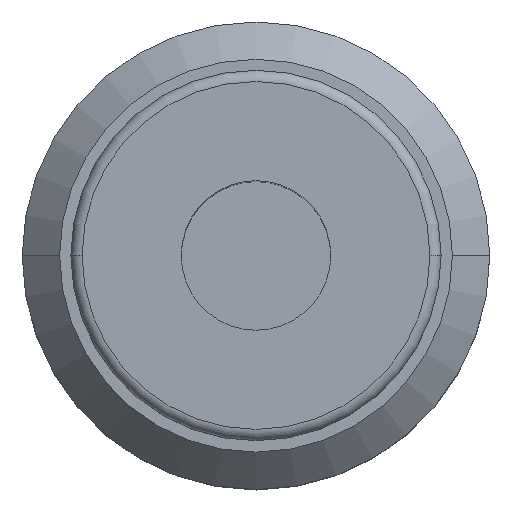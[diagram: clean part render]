
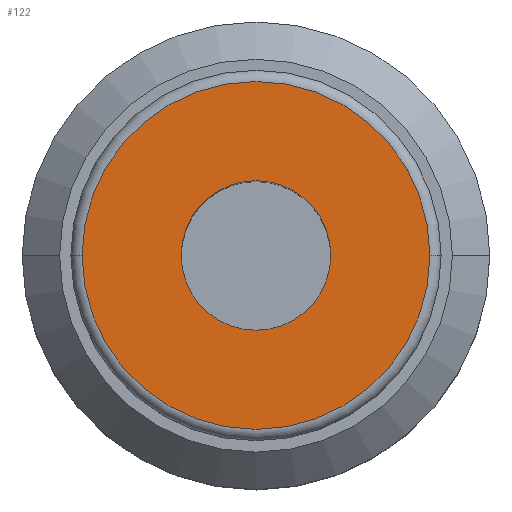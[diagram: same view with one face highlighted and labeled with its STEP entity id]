
A CAD part, top view. The second image highlights one B-rep face of the part: STEP entity #122.
In plain terms, the highlighted planar face has unit normal (0, 0, 1).
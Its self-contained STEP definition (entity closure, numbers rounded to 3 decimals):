
#116=FACE_BOUND('',#694,.T.);
#122=ADVANCED_FACE('PGJ10-4',(#172,#116),#165,.T.);
#165=PLANE('',#957);
#172=FACE_OUTER_BOUND('',#693,.T.);
#228=ORIENTED_EDGE('',*,*,#408,.T.);
#229=ORIENTED_EDGE('',*,*,#409,.T.);
#230=ORIENTED_EDGE('',*,*,#410,.F.);
#231=ORIENTED_EDGE('',*,*,#411,.F.);
#408=EDGE_CURVE('81',#648,#649,#591,.T.);
#409=EDGE_CURVE('82',#649,#648,#592,.T.);
#410=EDGE_CURVE('55',#650,#651,#593,.T.);
#411=EDGE_CURVE('54',#651,#650,#594,.T.);
#591=CIRCLE('',#953,4.65);
#592=CIRCLE('',#954,4.65);
#593=CIRCLE('',#955,2.);
#594=CIRCLE('',#956,2.);
#648=VERTEX_POINT('20',#777);
#649=VERTEX_POINT('52',#778);
#650=VERTEX_POINT('44',#781);
#651=VERTEX_POINT('21',#782);
#693=EDGE_LOOP('',(#228,#229));
#694=EDGE_LOOP('',(#230,#231));
#777=CARTESIAN_POINT('',(-4.65,0.,42.2));
#778=CARTESIAN_POINT('',(4.65,0.,42.2));
#779=CARTESIAN_POINT('',(0.,0.,42.2));
#780=CARTESIAN_POINT('',(0.,0.,42.2));
#781=CARTESIAN_POINT('',(2.,0.,42.2));
#782=CARTESIAN_POINT('',(-2.,0.,42.2));
#783=CARTESIAN_POINT('',(0.,0.,42.2));
#784=CARTESIAN_POINT('',(0.,0.,42.2));
#785=CARTESIAN_POINT('',(-5.15,5.15,42.2));
#953=AXIS2_PLACEMENT_3D('',#779,#1030,#1033);
#954=AXIS2_PLACEMENT_3D('',#780,#1030,#1031);
#955=AXIS2_PLACEMENT_3D('',#783,#1030,#1031);
#956=AXIS2_PLACEMENT_3D('',#784,#1030,#1033);
#957=AXIS2_PLACEMENT_3D('',#785,#1030,#1034);
#1030=DIRECTION('',(0.,0.,1.));
#1031=DIRECTION('',(1.,0.,0.));
#1033=DIRECTION('',(-1.,0.,0.));
#1034=DIRECTION('',(0.,-1.,0.));
